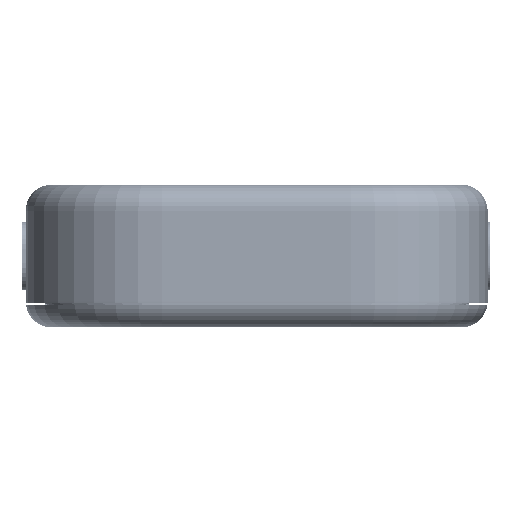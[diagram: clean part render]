
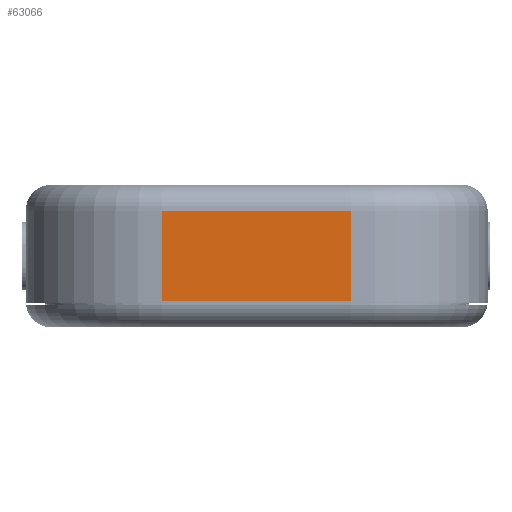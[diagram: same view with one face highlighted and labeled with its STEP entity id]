
A CAD part, front view. The second image highlights one B-rep face of the part: STEP entity #63066.
In plain terms, the highlighted planar face has unit normal (0, -1, 0).
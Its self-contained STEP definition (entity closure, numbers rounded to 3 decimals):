
#62226 = CYLINDRICAL_SURFACE('',#62227,26.);
#62227 = AXIS2_PLACEMENT_3D('',#62228,#62229,#62230);
#62228 = CARTESIAN_POINT('',(-18.,-42.,-13.6));
#62229 = DIRECTION('',(0.,0.,1.));
#62230 = DIRECTION('',(-1.,-0.,0.));
#62391 = VERTEX_POINT('',#62392);
#62392 = CARTESIAN_POINT('',(-18.,-68.,-8.6));
#62419 = EDGE_CURVE('',#62391,#62420,#62422,.T.);
#62420 = VERTEX_POINT('',#62421);
#62421 = CARTESIAN_POINT('',(-18.,-68.,8.6));
#62422 = SURFACE_CURVE('',#62423,(#62427,#62434),.PCURVE_S1.);
#62423 = LINE('',#62424,#62425);
#62424 = CARTESIAN_POINT('',(-18.,-68.,-13.6));
#62425 = VECTOR('',#62426,1.);
#62426 = DIRECTION('',(0.,0.,1.));
#62427 = PCURVE('',#62226,#62428);
#62428 = DEFINITIONAL_REPRESENTATION('',(#62429),#62433);
#62429 = LINE('',#62430,#62431);
#62430 = CARTESIAN_POINT('',(1.571,0.));
#62431 = VECTOR('',#62432,1.);
#62432 = DIRECTION('',(0.,1.));
#62433 = ( GEOMETRIC_REPRESENTATION_CONTEXT(2) 
PARAMETRIC_REPRESENTATION_CONTEXT() REPRESENTATION_CONTEXT('2D SPACE',''
  ) );
#62434 = PCURVE('',#62435,#62440);
#62435 = PLANE('',#62436);
#62436 = AXIS2_PLACEMENT_3D('',#62437,#62438,#62439);
#62437 = CARTESIAN_POINT('',(-44.,-68.,-13.6));
#62438 = DIRECTION('',(0.,1.,0.));
#62439 = DIRECTION('',(0.,-0.,1.));
#62440 = DEFINITIONAL_REPRESENTATION('',(#62441),#62445);
#62441 = LINE('',#62442,#62443);
#62442 = CARTESIAN_POINT('',(0.,26.));
#62443 = VECTOR('',#62444,1.);
#62444 = DIRECTION('',(1.,0.));
#62445 = ( GEOMETRIC_REPRESENTATION_CONTEXT(2) 
PARAMETRIC_REPRESENTATION_CONTEXT() REPRESENTATION_CONTEXT('2D SPACE',''
  ) );
#62970 = CYLINDRICAL_SURFACE('',#62971,5.);
#62971 = AXIS2_PLACEMENT_3D('',#62972,#62973,#62974);
#62972 = CARTESIAN_POINT('',(18.,-63.,-8.6));
#62973 = DIRECTION('',(-1.,-0.,-0.));
#62974 = DIRECTION('',(0.,-1.,0.));
#63056 = CYLINDRICAL_SURFACE('',#63057,5.);
#63057 = AXIS2_PLACEMENT_3D('',#63058,#63059,#63060);
#63058 = CARTESIAN_POINT('',(18.,-63.,8.6));
#63059 = DIRECTION('',(-1.,-0.,-0.));
#63060 = DIRECTION('',(0.,-1.,0.));
#63066 = ADVANCED_FACE('',(#63067),#62435,.F.);
#63067 = FACE_BOUND('',#63068,.F.);
#63068 = EDGE_LOOP('',(#63069,#63070,#63093,#63121));
#63069 = ORIENTED_EDGE('',*,*,#62419,.T.);
#63070 = ORIENTED_EDGE('',*,*,#63071,.F.);
#63071 = EDGE_CURVE('',#63072,#62420,#63074,.T.);
#63072 = VERTEX_POINT('',#63073);
#63073 = CARTESIAN_POINT('',(18.,-68.,8.6));
#63074 = SURFACE_CURVE('',#63075,(#63079,#63086),.PCURVE_S1.);
#63075 = LINE('',#63076,#63077);
#63076 = CARTESIAN_POINT('',(18.,-68.,8.6));
#63077 = VECTOR('',#63078,1.);
#63078 = DIRECTION('',(-1.,-0.,-0.));
#63079 = PCURVE('',#62435,#63080);
#63080 = DEFINITIONAL_REPRESENTATION('',(#63081),#63085);
#63081 = LINE('',#63082,#63083);
#63082 = CARTESIAN_POINT('',(22.2,62.));
#63083 = VECTOR('',#63084,1.);
#63084 = DIRECTION('',(0.,-1.));
#63085 = ( GEOMETRIC_REPRESENTATION_CONTEXT(2) 
PARAMETRIC_REPRESENTATION_CONTEXT() REPRESENTATION_CONTEXT('2D SPACE',''
  ) );
#63086 = PCURVE('',#63056,#63087);
#63087 = DEFINITIONAL_REPRESENTATION('',(#63088),#63092);
#63088 = LINE('',#63089,#63090);
#63089 = CARTESIAN_POINT('',(0.,0.));
#63090 = VECTOR('',#63091,1.);
#63091 = DIRECTION('',(0.,1.));
#63092 = ( GEOMETRIC_REPRESENTATION_CONTEXT(2) 
PARAMETRIC_REPRESENTATION_CONTEXT() REPRESENTATION_CONTEXT('2D SPACE',''
  ) );
#63093 = ORIENTED_EDGE('',*,*,#63094,.F.);
#63094 = EDGE_CURVE('',#63095,#63072,#63097,.T.);
#63095 = VERTEX_POINT('',#63096);
#63096 = CARTESIAN_POINT('',(18.,-68.,-8.6));
#63097 = SURFACE_CURVE('',#63098,(#63102,#63109),.PCURVE_S1.);
#63098 = LINE('',#63099,#63100);
#63099 = CARTESIAN_POINT('',(18.,-68.,-13.6));
#63100 = VECTOR('',#63101,1.);
#63101 = DIRECTION('',(0.,0.,1.));
#63102 = PCURVE('',#62435,#63103);
#63103 = DEFINITIONAL_REPRESENTATION('',(#63104),#63108);
#63104 = LINE('',#63105,#63106);
#63105 = CARTESIAN_POINT('',(0.,62.));
#63106 = VECTOR('',#63107,1.);
#63107 = DIRECTION('',(1.,0.));
#63108 = ( GEOMETRIC_REPRESENTATION_CONTEXT(2) 
PARAMETRIC_REPRESENTATION_CONTEXT() REPRESENTATION_CONTEXT('2D SPACE',''
  ) );
#63109 = PCURVE('',#63110,#63115);
#63110 = CYLINDRICAL_SURFACE('',#63111,26.);
#63111 = AXIS2_PLACEMENT_3D('',#63112,#63113,#63114);
#63112 = CARTESIAN_POINT('',(18.,-42.,-13.6));
#63113 = DIRECTION('',(0.,0.,1.));
#63114 = DIRECTION('',(1.,0.,-0.));
#63115 = DEFINITIONAL_REPRESENTATION('',(#63116),#63120);
#63116 = LINE('',#63117,#63118);
#63117 = CARTESIAN_POINT('',(4.712,0.));
#63118 = VECTOR('',#63119,1.);
#63119 = DIRECTION('',(-0.,1.));
#63120 = ( GEOMETRIC_REPRESENTATION_CONTEXT(2) 
PARAMETRIC_REPRESENTATION_CONTEXT() REPRESENTATION_CONTEXT('2D SPACE',''
  ) );
#63121 = ORIENTED_EDGE('',*,*,#63122,.T.);
#63122 = EDGE_CURVE('',#63095,#62391,#63123,.T.);
#63123 = SURFACE_CURVE('',#63124,(#63128,#63135),.PCURVE_S1.);
#63124 = LINE('',#63125,#63126);
#63125 = CARTESIAN_POINT('',(18.,-68.,-8.6));
#63126 = VECTOR('',#63127,1.);
#63127 = DIRECTION('',(-1.,-0.,-0.));
#63128 = PCURVE('',#62435,#63129);
#63129 = DEFINITIONAL_REPRESENTATION('',(#63130),#63134);
#63130 = LINE('',#63131,#63132);
#63131 = CARTESIAN_POINT('',(5.,62.));
#63132 = VECTOR('',#63133,1.);
#63133 = DIRECTION('',(0.,-1.));
#63134 = ( GEOMETRIC_REPRESENTATION_CONTEXT(2) 
PARAMETRIC_REPRESENTATION_CONTEXT() REPRESENTATION_CONTEXT('2D SPACE',''
  ) );
#63135 = PCURVE('',#62970,#63136);
#63136 = DEFINITIONAL_REPRESENTATION('',(#63137),#63141);
#63137 = LINE('',#63138,#63139);
#63138 = CARTESIAN_POINT('',(6.283,0.));
#63139 = VECTOR('',#63140,1.);
#63140 = DIRECTION('',(-0.,1.));
#63141 = ( GEOMETRIC_REPRESENTATION_CONTEXT(2) 
PARAMETRIC_REPRESENTATION_CONTEXT() REPRESENTATION_CONTEXT('2D SPACE',''
  ) );
